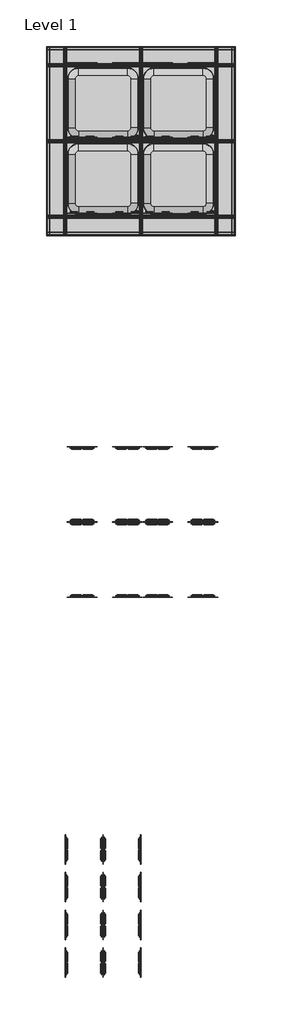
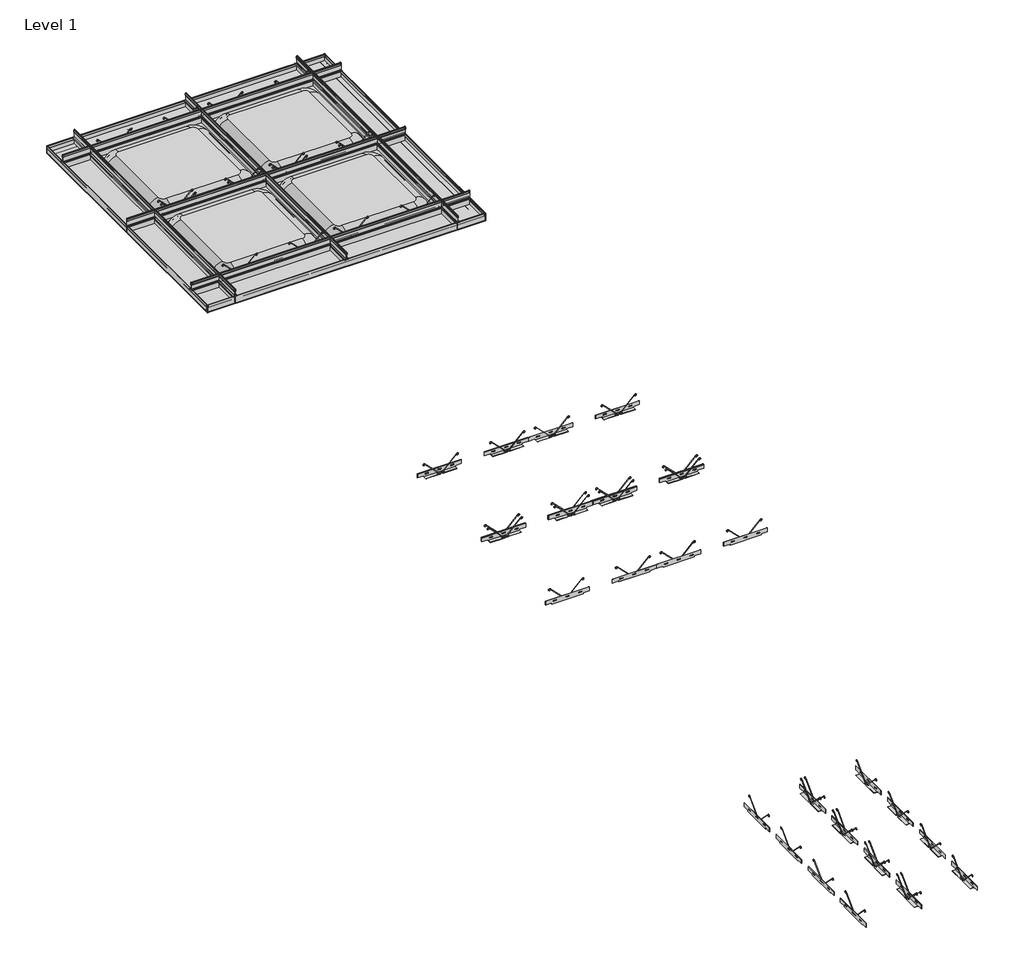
# One storey, incomplete: 49 proxies.
"""IFC4 building model written with IfcOpenShell, lengths in millimetres."""

from ifc_helpers import new_model, si_unit, origin, place, context, project, spatial, transform, mapped, element, save
from components import generic_models_7a7c092e, generic_models_d78bd060, generic_models_1cad4ad9, generic_models_38ad2210, generic_models_51035367, generic_models_b4303d49

model = new_model("IFC4")

# Units and contexts
model_context = context("Model", 3, world=origin())
ifc_project = project(units=[si_unit("LENGTHUNIT", "METRE", prefix="MILLI")], contexts=[model_context])

# Site, building, storey
site = spatial("IfcSite", under=ifc_project)
building = spatial("IfcBuilding", under=site)
storey = spatial("IfcBuildingStorey", under=building, Name="Level 1", Elevation=0.0)

# Proxies
placement = place(None, origin())
generic_models_shape = generic_models_7a7c092e(model_context)
generic_models_2_shape = generic_models_d78bd060(model_context)
generic_models_3_shape = generic_models_1cad4ad9(model_context)
generic_models_4_shape = generic_models_38ad2210(model_context)
element("IfcBuildingElementProxy", 1, Name="Maxxit_Concave-Ceiling_rev-01 : Maxxit_Concave-Ceiling_Solo", ObjectType="Maxxit_Concave-Ceiling_rev-01 : Maxxit_Concave-Ceiling_Solo", at=placement, inside=storey, context=model_context, shape_type="MappedRepresentation", body=[
    mapped(generic_models_shape, transform((1882.0066774, 6086.1105581, 0.0), x_axis=(1.0, 0.0, 0.0), y_axis=(0.0, 1.0, 0.0), z_axis=(0.0, 0.0, 1.0))),
    mapped(generic_models_2_shape, transform((1882.0066774, 6086.1105581, 0.0), x_axis=(1.0, 0.0, 0.0), y_axis=(0.0, 1.0, 0.0), z_axis=(0.0, 0.0, 1.0))),
    mapped(generic_models_3_shape, transform((1882.0066774, 6086.1105581, 0.0), x_axis=(1.0, 0.0, 0.0), y_axis=(0.0, 1.0, 0.0), z_axis=(0.0, 0.0, 1.0))),
    mapped(generic_models_4_shape, transform((1882.0066774, 6086.1105581, 0.0), x_axis=(1.0, 0.0, 0.0), y_axis=(0.0, 1.0, 0.0), z_axis=(0.0, 0.0, 1.0))),
])
generic_models_5_shape = generic_models_51035367(model_context)
element("IfcBuildingElementProxy", 2, Name="Agilis Panel Springs_Installed : Agilis Panel Springs_Installed", ObjectType="Agilis Panel Springs_Installed : Agilis Panel Springs_Installed", at=placement, inside=storey, context=model_context, shape_type="MappedRepresentation", body=[
    mapped(generic_models_5_shape, transform((2169.4879274, 7467.9855581, -3.0875), x_axis=(-1.0, 0.0, 0.0), y_axis=(0.0, -1.0, 0.0), z_axis=(0.0, 0.0, 1.0))),
])
element("IfcBuildingElementProxy", 3, Name="Agilis Panel Springs_Installed : Agilis Panel Springs_Installed", ObjectType="Agilis Panel Springs_Installed : Agilis Panel Springs_Installed", at=placement, inside=storey, context=model_context, shape_type="MappedRepresentation", body=[
    mapped(generic_models_5_shape, transform((2534.8379274, 6886.535565, -3.0875), x_axis=(1.0, 0.0, 0.0), y_axis=(0.0, 1.0, 0.0), z_axis=(0.0, 0.0, 1.0))),
])
element("IfcBuildingElementProxy", 4, Name="Agilis Panel Springs_Installed : Agilis Panel Springs_Installed", ObjectType="Agilis Panel Springs_Installed : Agilis Panel Springs_Installed", at=placement, inside=storey, context=model_context, shape_type="MappedRepresentation", body=[
    mapped(generic_models_5_shape, transform((2779.0879274, 7467.9855581, -3.0875), x_axis=(-1.0, 0.0, 0.0), y_axis=(0.0, -1.0, 0.0), z_axis=(0.0, 0.0, 1.0))),
])
element("IfcBuildingElementProxy", 5, Name="Agilis Panel Springs_Installed : Agilis Panel Springs_Installed", ObjectType="Agilis Panel Springs_Installed : Agilis Panel Springs_Installed", at=placement, inside=storey, context=model_context, shape_type="MappedRepresentation", body=[
    mapped(generic_models_5_shape, transform((3144.4379274, 6886.535565, -3.0875), x_axis=(1.0, 0.0, 0.0), y_axis=(0.0, 1.0, 0.0), z_axis=(0.0, 0.0, 1.0))),
])
element("IfcBuildingElementProxy", 6, Name="Agilis Panel Springs_Installed : Agilis Panel Springs_Installed", ObjectType="Agilis Panel Springs_Installed : Agilis Panel Springs_Installed", at=placement, inside=storey, context=model_context, shape_type="MappedRepresentation", body=[
    mapped(generic_models_5_shape, transform((2534.8379274, 6276.935565, -3.0875), x_axis=(1.0, 0.0, 0.0), y_axis=(0.0, 1.0, 0.0), z_axis=(0.0, 0.0, 1.0))),
])
element("IfcBuildingElementProxy", 7, Name="Agilis Panel Springs_Installed : Agilis Panel Springs_Installed", ObjectType="Agilis Panel Springs_Installed : Agilis Panel Springs_Installed", at=placement, inside=storey, context=model_context, shape_type="MappedRepresentation", body=[
    mapped(generic_models_5_shape, transform((2169.4879274, 6858.3855581, -3.0875), x_axis=(-1.0, 0.0, 0.0), y_axis=(0.0, -1.0, 0.0), z_axis=(0.0, 0.0, 1.0))),
])
element("IfcBuildingElementProxy", 8, Name="Agilis Panel Springs_Installed : Agilis Panel Springs_Installed", ObjectType="Agilis Panel Springs_Installed : Agilis Panel Springs_Installed", at=placement, inside=storey, context=model_context, shape_type="MappedRepresentation", body=[
    mapped(generic_models_5_shape, transform((3144.4379274, 6276.935565, -3.0875), x_axis=(1.0, 0.0, 0.0), y_axis=(0.0, 1.0, 0.0), z_axis=(0.0, 0.0, 1.0))),
])
element("IfcBuildingElementProxy", 9, Name="Agilis Panel Springs_Installed : Agilis Panel Springs_Installed", ObjectType="Agilis Panel Springs_Installed : Agilis Panel Springs_Installed", at=placement, inside=storey, context=model_context, shape_type="MappedRepresentation", body=[
    mapped(generic_models_5_shape, transform((2779.0879274, 6858.3855581, -3.0875), x_axis=(-1.0, 0.0, 0.0), y_axis=(0.0, -1.0, 0.0), z_axis=(0.0, 0.0, 1.0))),
])
element("IfcBuildingElementProxy", 10, Name="Agilis Panel Springs_Installed : Agilis Panel Springs_Installed", ObjectType="Agilis Panel Springs_Installed : Agilis Panel Springs_Installed", at=placement, inside=storey, context=model_context, shape_type="MappedRepresentation", body=[
    mapped(generic_models_5_shape, transform((2169.4879274, 4371.2855352, -3.0875), x_axis=(-1.0, 0.0, 0.0), y_axis=(0.0, -1.0, 0.0), z_axis=(0.0, 0.0, 1.0))),
])
element("IfcBuildingElementProxy", 11, Name="Agilis Panel Springs_Installed : Agilis Panel Springs_Installed", ObjectType="Agilis Panel Springs_Installed : Agilis Panel Springs_Installed", at=placement, inside=storey, context=model_context, shape_type="MappedRepresentation", body=[
    mapped(generic_models_5_shape, transform((2534.8379274, 3789.3025479, -3.0875), x_axis=(1.0, 0.0, 0.0), y_axis=(0.0, 1.0, 0.0), z_axis=(0.0, 0.0, 1.0))),
])
element("IfcBuildingElementProxy", 12, Name="Agilis Panel Springs_Installed : Agilis Panel Springs_Installed", ObjectType="Agilis Panel Springs_Installed : Agilis Panel Springs_Installed", at=placement, inside=storey, context=model_context, shape_type="MappedRepresentation", body=[
    mapped(generic_models_5_shape, transform((2779.0879274, 4371.2855352, -3.0875), x_axis=(-1.0, 0.0, 0.0), y_axis=(0.0, -1.0, 0.0), z_axis=(0.0, 0.0, 1.0))),
])
element("IfcBuildingElementProxy", 13, Name="Agilis Panel Springs_Installed : Agilis Panel Springs_Installed", ObjectType="Agilis Panel Springs_Installed : Agilis Panel Springs_Installed", at=placement, inside=storey, context=model_context, shape_type="MappedRepresentation", body=[
    mapped(generic_models_5_shape, transform((3144.4379274, 3789.3025479, -3.0875), x_axis=(1.0, 0.0, 0.0), y_axis=(0.0, 1.0, 0.0), z_axis=(0.0, 0.0, 1.0))),
])
element("IfcBuildingElementProxy", 14, Name="Agilis Panel Springs_Installed : Agilis Panel Springs_Installed", ObjectType="Agilis Panel Springs_Installed : Agilis Panel Springs_Installed", at=placement, inside=storey, context=model_context, shape_type="MappedRepresentation", body=[
    mapped(generic_models_5_shape, transform((2169.4879274, 3761.6855352, -3.0875), x_axis=(-1.0, 0.0, 0.0), y_axis=(0.0, -1.0, 0.0), z_axis=(0.0, 0.0, 1.0))),
])
element("IfcBuildingElementProxy", 15, Name="Agilis Panel Springs_Installed : Agilis Panel Springs_Installed", ObjectType="Agilis Panel Springs_Installed : Agilis Panel Springs_Installed", at=placement, inside=storey, context=model_context, shape_type="MappedRepresentation", body=[
    mapped(generic_models_5_shape, transform((2534.8379274, 3179.7025479, -3.0875), x_axis=(1.0, 0.0, 0.0), y_axis=(0.0, 1.0, 0.0), z_axis=(0.0, 0.0, 1.0))),
])
element("IfcBuildingElementProxy", 16, Name="Agilis Panel Springs_Installed : Agilis Panel Springs_Installed", ObjectType="Agilis Panel Springs_Installed : Agilis Panel Springs_Installed", at=placement, inside=storey, context=model_context, shape_type="MappedRepresentation", body=[
    mapped(generic_models_5_shape, transform((2779.0879274, 3761.6855352, -3.0875), x_axis=(-1.0, 0.0, 0.0), y_axis=(0.0, -1.0, 0.0), z_axis=(0.0, 0.0, 1.0))),
])
element("IfcBuildingElementProxy", 17, Name="Agilis Panel Springs_Installed : Agilis Panel Springs_Installed", ObjectType="Agilis Panel Springs_Installed : Agilis Panel Springs_Installed", at=placement, inside=storey, context=model_context, shape_type="MappedRepresentation", body=[
    mapped(generic_models_5_shape, transform((3144.4379274, 3179.7025479, -3.0875), x_axis=(1.0, 0.0, 0.0), y_axis=(0.0, 1.0, 0.0), z_axis=(0.0, 0.0, 1.0))),
])
element("IfcBuildingElementProxy", 18, Name="Agilis Panel Springs_Installed : Agilis Panel Springs_Installed", ObjectType="Agilis Panel Springs_Installed : Agilis Panel Springs_Installed", at=placement, inside=storey, context=model_context, shape_type="MappedRepresentation", body=[
    mapped(generic_models_5_shape, transform((2327.6691774, 1134.6980718, -3.0875), x_axis=(0.0, 1.0, 0.0), y_axis=(-1.0, 0.0, 0.0), z_axis=(0.0, 0.0, 1.0))),
])
element("IfcBuildingElementProxy", 19, Name="Agilis Panel Springs_Installed : Agilis Panel Springs_Installed", ObjectType="Agilis Panel Springs_Installed : Agilis Panel Springs_Installed", at=placement, inside=storey, context=model_context, shape_type="MappedRepresentation", body=[
    mapped(generic_models_5_shape, transform((2327.6691774, 831.5183045, -3.0875), x_axis=(0.0, 1.0, 0.0), y_axis=(-1.0, 0.0, 0.0), z_axis=(0.0, 0.0, 1.0))),
])
element("IfcBuildingElementProxy", 20, Name="Agilis Panel Springs_Installed : Agilis Panel Springs_Installed", ObjectType="Agilis Panel Springs_Installed : Agilis Panel Springs_Installed", at=placement, inside=storey, context=model_context, shape_type="MappedRepresentation", body=[
    mapped(generic_models_5_shape, transform((2327.6691774, 525.1308319, -3.0875), x_axis=(0.0, 1.0, 0.0), y_axis=(-1.0, 0.0, 0.0), z_axis=(0.0, 0.0, 1.0))),
])
element("IfcBuildingElementProxy", 21, Name="Agilis Panel Springs_Installed : Agilis Panel Springs_Installed", ObjectType="Agilis Panel Springs_Installed : Agilis Panel Springs_Installed", at=placement, inside=storey, context=model_context, shape_type="MappedRepresentation", body=[
    mapped(generic_models_5_shape, transform((2327.6691774, 221.9510645, -3.0875), x_axis=(0.0, 1.0, 0.0), y_axis=(-1.0, 0.0, 0.0), z_axis=(0.0, 0.0, 1.0))),
])
element("IfcBuildingElementProxy", 22, Name="Agilis Panel Springs_Installed : Agilis Panel Springs_Installed", ObjectType="Agilis Panel Springs_Installed : Agilis Panel Springs_Installed", at=placement, inside=storey, context=model_context, shape_type="MappedRepresentation", body=[
    mapped(generic_models_5_shape, transform((2632.4691774, 1134.6980718, -3.0875), x_axis=(0.0, 1.0, 0.0), y_axis=(-1.0, 0.0, 0.0), z_axis=(0.0, 0.0, 1.0))),
])
element("IfcBuildingElementProxy", 23, Name="Agilis Panel Springs_Installed : Agilis Panel Springs_Installed", ObjectType="Agilis Panel Springs_Installed : Agilis Panel Springs_Installed", at=placement, inside=storey, context=model_context, shape_type="MappedRepresentation", body=[
    mapped(generic_models_5_shape, transform((2632.4691774, 831.5183045, -3.0875), x_axis=(0.0, 1.0, 0.0), y_axis=(-1.0, 0.0, 0.0), z_axis=(0.0, 0.0, 1.0))),
])
element("IfcBuildingElementProxy", 24, Name="Agilis Panel Springs_Installed : Agilis Panel Springs_Installed", ObjectType="Agilis Panel Springs_Installed : Agilis Panel Springs_Installed", at=placement, inside=storey, context=model_context, shape_type="MappedRepresentation", body=[
    mapped(generic_models_5_shape, transform((2632.4691774, 525.1308319, -3.0875), x_axis=(0.0, 1.0, 0.0), y_axis=(-1.0, 0.0, 0.0), z_axis=(0.0, 0.0, 1.0))),
])
element("IfcBuildingElementProxy", 25, Name="Agilis Panel Springs_Installed : Agilis Panel Springs_Installed", ObjectType="Agilis Panel Springs_Installed : Agilis Panel Springs_Installed", at=placement, inside=storey, context=model_context, shape_type="MappedRepresentation", body=[
    mapped(generic_models_5_shape, transform((2632.4691774, 221.9510645, -3.0875), x_axis=(0.0, 1.0, 0.0), y_axis=(-1.0, 0.0, 0.0), z_axis=(0.0, 0.0, 1.0))),
])
generic_models_6_shape = generic_models_b4303d49(model_context)
element("IfcBuildingElementProxy", 26, Name="Agilis Panel Springs_Installed : Agilis Panel Springs_Installed", ObjectType="Agilis Panel Springs_Installed : Agilis Panel Springs_Installed", at=placement, inside=storey, context=model_context, shape_type="MappedRepresentation", body=[
    mapped(generic_models_6_shape, transform((2534.8379274, 7467.9855581, -3.0875), x_axis=(1.0, 0.0, 0.0), y_axis=(0.0, 1.0, 0.0), z_axis=(0.0, 0.0, 1.0))),
])
element("IfcBuildingElementProxy", 27, Name="Agilis Panel Springs_Installed : Agilis Panel Springs_Installed", ObjectType="Agilis Panel Springs_Installed : Agilis Panel Springs_Installed", at=placement, inside=storey, context=model_context, shape_type="MappedRepresentation", body=[
    mapped(generic_models_6_shape, transform((2169.4879274, 6886.535565, -3.0875), x_axis=(-1.0, 0.0, 0.0), y_axis=(0.0, -1.0, 0.0), z_axis=(0.0, 0.0, 1.0))),
])
element("IfcBuildingElementProxy", 28, Name="Agilis Panel Springs_Installed : Agilis Panel Springs_Installed", ObjectType="Agilis Panel Springs_Installed : Agilis Panel Springs_Installed", at=placement, inside=storey, context=model_context, shape_type="MappedRepresentation", body=[
    mapped(generic_models_6_shape, transform((3144.4379274, 7467.9855581, -3.0875), x_axis=(1.0, 0.0, 0.0), y_axis=(0.0, 1.0, 0.0), z_axis=(0.0, 0.0, 1.0))),
])
element("IfcBuildingElementProxy", 29, Name="Agilis Panel Springs_Installed : Agilis Panel Springs_Installed", ObjectType="Agilis Panel Springs_Installed : Agilis Panel Springs_Installed", at=placement, inside=storey, context=model_context, shape_type="MappedRepresentation", body=[
    mapped(generic_models_6_shape, transform((2779.0879274, 6886.535565, -3.0875), x_axis=(-1.0, 0.0, 0.0), y_axis=(0.0, -1.0, 0.0), z_axis=(0.0, 0.0, 1.0))),
])
element("IfcBuildingElementProxy", 30, Name="Agilis Panel Springs_Installed : Agilis Panel Springs_Installed", ObjectType="Agilis Panel Springs_Installed : Agilis Panel Springs_Installed", at=placement, inside=storey, context=model_context, shape_type="MappedRepresentation", body=[
    mapped(generic_models_6_shape, transform((2169.4879274, 6276.935565, -3.0875), x_axis=(-1.0, 0.0, 0.0), y_axis=(0.0, -1.0, 0.0), z_axis=(0.0, 0.0, 1.0))),
])
element("IfcBuildingElementProxy", 31, Name="Agilis Panel Springs_Installed : Agilis Panel Springs_Installed", ObjectType="Agilis Panel Springs_Installed : Agilis Panel Springs_Installed", at=placement, inside=storey, context=model_context, shape_type="MappedRepresentation", body=[
    mapped(generic_models_6_shape, transform((2534.8379274, 6858.3855581, -3.0875), x_axis=(1.0, 0.0, 0.0), y_axis=(0.0, 1.0, 0.0), z_axis=(0.0, 0.0, 1.0))),
])
element("IfcBuildingElementProxy", 32, Name="Agilis Panel Springs_Installed : Agilis Panel Springs_Installed", ObjectType="Agilis Panel Springs_Installed : Agilis Panel Springs_Installed", at=placement, inside=storey, context=model_context, shape_type="MappedRepresentation", body=[
    mapped(generic_models_6_shape, transform((2779.0879274, 6276.935565, -3.0875), x_axis=(-1.0, 0.0, 0.0), y_axis=(0.0, -1.0, 0.0), z_axis=(0.0, 0.0, 1.0))),
])
element("IfcBuildingElementProxy", 33, Name="Agilis Panel Springs_Installed : Agilis Panel Springs_Installed", ObjectType="Agilis Panel Springs_Installed : Agilis Panel Springs_Installed", at=placement, inside=storey, context=model_context, shape_type="MappedRepresentation", body=[
    mapped(generic_models_6_shape, transform((3144.4379274, 6858.3855581, -3.0875), x_axis=(1.0, 0.0, 0.0), y_axis=(0.0, 1.0, 0.0), z_axis=(0.0, 0.0, 1.0))),
])
element("IfcBuildingElementProxy", 34, Name="Agilis Panel Springs_Installed : Agilis Panel Springs_Installed", ObjectType="Agilis Panel Springs_Installed : Agilis Panel Springs_Installed", at=placement, inside=storey, context=model_context, shape_type="MappedRepresentation", body=[
    mapped(generic_models_6_shape, transform((2534.8379274, 4371.2855352, -3.0875), x_axis=(1.0, 0.0, 0.0), y_axis=(0.0, 1.0, 0.0), z_axis=(0.0, 0.0, 1.0))),
])
element("IfcBuildingElementProxy", 35, Name="Agilis Panel Springs_Installed : Agilis Panel Springs_Installed", ObjectType="Agilis Panel Springs_Installed : Agilis Panel Springs_Installed", at=placement, inside=storey, context=model_context, shape_type="MappedRepresentation", body=[
    mapped(generic_models_6_shape, transform((2169.4879274, 3789.3025479, -3.0875), x_axis=(-1.0, 0.0, 0.0), y_axis=(0.0, -1.0, 0.0), z_axis=(0.0, 0.0, 1.0))),
])
element("IfcBuildingElementProxy", 36, Name="Agilis Panel Springs_Installed : Agilis Panel Springs_Installed", ObjectType="Agilis Panel Springs_Installed : Agilis Panel Springs_Installed", at=placement, inside=storey, context=model_context, shape_type="MappedRepresentation", body=[
    mapped(generic_models_6_shape, transform((3144.4379274, 4371.2855352, -3.0875), x_axis=(1.0, 0.0, 0.0), y_axis=(0.0, 1.0, 0.0), z_axis=(0.0, 0.0, 1.0))),
])
element("IfcBuildingElementProxy", 37, Name="Agilis Panel Springs_Installed : Agilis Panel Springs_Installed", ObjectType="Agilis Panel Springs_Installed : Agilis Panel Springs_Installed", at=placement, inside=storey, context=model_context, shape_type="MappedRepresentation", body=[
    mapped(generic_models_6_shape, transform((2779.0879274, 3789.3025479, -3.0875), x_axis=(-1.0, 0.0, 0.0), y_axis=(0.0, -1.0, 0.0), z_axis=(0.0, 0.0, 1.0))),
])
element("IfcBuildingElementProxy", 38, Name="Agilis Panel Springs_Installed : Agilis Panel Springs_Installed", ObjectType="Agilis Panel Springs_Installed : Agilis Panel Springs_Installed", at=placement, inside=storey, context=model_context, shape_type="MappedRepresentation", body=[
    mapped(generic_models_6_shape, transform((2534.8379274, 3761.6855352, -3.0875), x_axis=(1.0, 0.0, 0.0), y_axis=(0.0, 1.0, 0.0), z_axis=(0.0, 0.0, 1.0))),
])
element("IfcBuildingElementProxy", 39, Name="Agilis Panel Springs_Installed : Agilis Panel Springs_Installed", ObjectType="Agilis Panel Springs_Installed : Agilis Panel Springs_Installed", at=placement, inside=storey, context=model_context, shape_type="MappedRepresentation", body=[
    mapped(generic_models_6_shape, transform((2169.4879274, 3179.7025479, -3.0875), x_axis=(-1.0, 0.0, 0.0), y_axis=(0.0, -1.0, 0.0), z_axis=(0.0, 0.0, 1.0))),
])
element("IfcBuildingElementProxy", 40, Name="Agilis Panel Springs_Installed : Agilis Panel Springs_Installed", ObjectType="Agilis Panel Springs_Installed : Agilis Panel Springs_Installed", at=placement, inside=storey, context=model_context, shape_type="MappedRepresentation", body=[
    mapped(generic_models_6_shape, transform((3144.4379274, 3761.6855352, -3.0875), x_axis=(1.0, 0.0, 0.0), y_axis=(0.0, 1.0, 0.0), z_axis=(0.0, 0.0, 1.0))),
])
element("IfcBuildingElementProxy", 41, Name="Agilis Panel Springs_Installed : Agilis Panel Springs_Installed", ObjectType="Agilis Panel Springs_Installed : Agilis Panel Springs_Installed", at=placement, inside=storey, context=model_context, shape_type="MappedRepresentation", body=[
    mapped(generic_models_6_shape, transform((2779.0879274, 3179.7025479, -3.0875), x_axis=(-1.0, 0.0, 0.0), y_axis=(0.0, -1.0, 0.0), z_axis=(0.0, 0.0, 1.0))),
])
element("IfcBuildingElementProxy", 42, Name="Agilis Panel Springs_Installed : Agilis Panel Springs_Installed", ObjectType="Agilis Panel Springs_Installed : Agilis Panel Springs_Installed", at=placement, inside=storey, context=model_context, shape_type="MappedRepresentation", body=[
    mapped(generic_models_6_shape, transform((2044.5629274, 1134.6980718, -3.0875), x_axis=(0.0, 1.0, 0.0), y_axis=(-1.0, 0.0, 0.0), z_axis=(0.0, 0.0, 1.0))),
])
element("IfcBuildingElementProxy", 43, Name="Agilis Panel Springs_Installed : Agilis Panel Springs_Installed", ObjectType="Agilis Panel Springs_Installed : Agilis Panel Springs_Installed", at=placement, inside=storey, context=model_context, shape_type="MappedRepresentation", body=[
    mapped(generic_models_6_shape, transform((2044.5629274, 831.5183045, -3.0875), x_axis=(0.0, 1.0, 0.0), y_axis=(-1.0, 0.0, 0.0), z_axis=(0.0, 0.0, 1.0))),
])
element("IfcBuildingElementProxy", 44, Name="Agilis Panel Springs_Installed : Agilis Panel Springs_Installed", ObjectType="Agilis Panel Springs_Installed : Agilis Panel Springs_Installed", at=placement, inside=storey, context=model_context, shape_type="MappedRepresentation", body=[
    mapped(generic_models_6_shape, transform((2044.5629274, 525.1308319, -3.0875), x_axis=(0.0, 1.0, 0.0), y_axis=(-1.0, 0.0, 0.0), z_axis=(0.0, 0.0, 1.0))),
])
element("IfcBuildingElementProxy", 45, Name="Agilis Panel Springs_Installed : Agilis Panel Springs_Installed", ObjectType="Agilis Panel Springs_Installed : Agilis Panel Springs_Installed", at=placement, inside=storey, context=model_context, shape_type="MappedRepresentation", body=[
    mapped(generic_models_6_shape, transform((2044.5629274, 221.9510645, -3.0875), x_axis=(0.0, 1.0, 0.0), y_axis=(-1.0, 0.0, 0.0), z_axis=(0.0, 0.0, 1.0))),
])
element("IfcBuildingElementProxy", 46, Name="Agilis Panel Springs_Installed : Agilis Panel Springs_Installed", ObjectType="Agilis Panel Springs_Installed : Agilis Panel Springs_Installed", at=placement, inside=storey, context=model_context, shape_type="MappedRepresentation", body=[
    mapped(generic_models_6_shape, transform((2349.3629274, 1134.6980718, -3.0875), x_axis=(0.0, 1.0, 0.0), y_axis=(-1.0, 0.0, 0.0), z_axis=(0.0, 0.0, 1.0))),
])
element("IfcBuildingElementProxy", 47, Name="Agilis Panel Springs_Installed : Agilis Panel Springs_Installed", ObjectType="Agilis Panel Springs_Installed : Agilis Panel Springs_Installed", at=placement, inside=storey, context=model_context, shape_type="MappedRepresentation", body=[
    mapped(generic_models_6_shape, transform((2349.3629274, 831.5183045, -3.0875), x_axis=(0.0, 1.0, 0.0), y_axis=(-1.0, 0.0, 0.0), z_axis=(0.0, 0.0, 1.0))),
])
element("IfcBuildingElementProxy", 48, Name="Agilis Panel Springs_Installed : Agilis Panel Springs_Installed", ObjectType="Agilis Panel Springs_Installed : Agilis Panel Springs_Installed", at=placement, inside=storey, context=model_context, shape_type="MappedRepresentation", body=[
    mapped(generic_models_6_shape, transform((2349.3629274, 525.1308319, -3.0875), x_axis=(0.0, 1.0, 0.0), y_axis=(-1.0, 0.0, 0.0), z_axis=(0.0, 0.0, 1.0))),
])
element("IfcBuildingElementProxy", 49, Name="Agilis Panel Springs_Installed : Agilis Panel Springs_Installed", ObjectType="Agilis Panel Springs_Installed : Agilis Panel Springs_Installed", at=placement, inside=storey, context=model_context, shape_type="MappedRepresentation", body=[
    mapped(generic_models_6_shape, transform((2349.3629274, 221.9510645, -3.0875), x_axis=(0.0, 1.0, 0.0), y_axis=(-1.0, 0.0, 0.0), z_axis=(0.0, 0.0, 1.0))),
])

save(model, "model.ifc")
